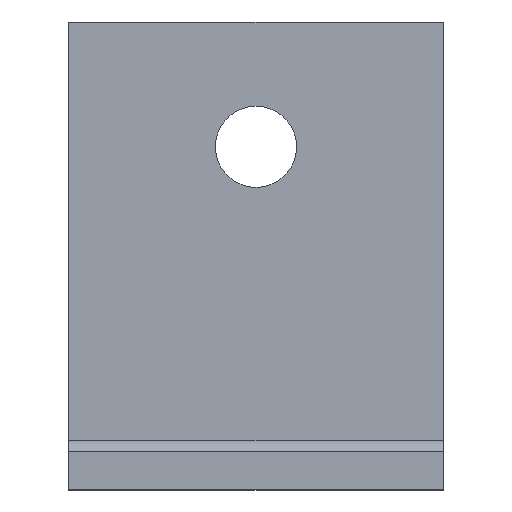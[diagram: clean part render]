
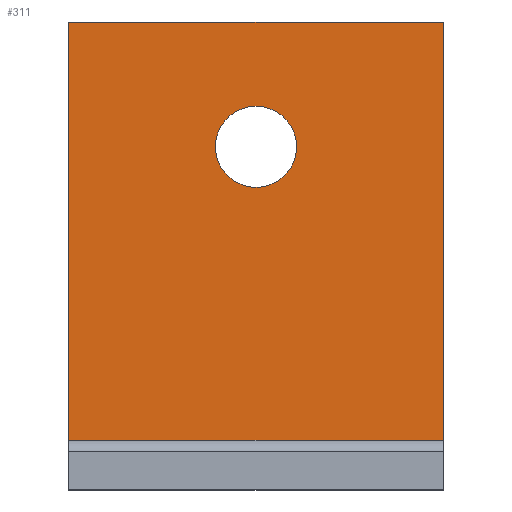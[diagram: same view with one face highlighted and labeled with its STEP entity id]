
A CAD part, top view. The second image highlights one B-rep face of the part: STEP entity #311.
In plain terms, the highlighted planar face has unit normal (0, 0, 1).
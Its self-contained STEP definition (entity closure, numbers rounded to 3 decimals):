
#1 = DIRECTION ( 'NONE',  ( 0., 0., 1. ) ) ;
#3 = CARTESIAN_POINT ( 'NONE',  ( 0., 0., 6. ) ) ;
#17 = DIRECTION ( 'NONE',  ( -1., 0., 0. ) ) ;
#31 = DIRECTION ( 'NONE',  ( -1., 0., 0. ) ) ;
#45 = VERTEX_POINT ( 'NONE', #162 ) ;
#85 = LINE ( 'NONE', #3, #494 ) ;
#91 = ORIENTED_EDGE ( 'NONE', *, *, #503, .T. ) ;
#92 = LINE ( 'NONE', #149, #400 ) ;
#99 = VERTEX_POINT ( 'NONE', #563 ) ;
#100 = DIRECTION ( 'NONE',  ( 0., -1., 0. ) ) ;
#110 = DIRECTION ( 'NONE',  ( 0., 1., 0. ) ) ;
#111 = EDGE_CURVE ( 'NONE', #249, #443, #196, .T. ) ;
#121 = CARTESIAN_POINT ( 'NONE',  ( 0., 0., 6. ) ) ;
#126 = CARTESIAN_POINT ( 'NONE',  ( 36.5, 55., 6. ) ) ;
#137 = VECTOR ( 'NONE', #302, 1000. ) ;
#146 = DIRECTION ( 'NONE',  ( 1., 0., 0. ) ) ;
#149 = CARTESIAN_POINT ( 'NONE',  ( 60., 0., 6. ) ) ;
#162 = CARTESIAN_POINT ( 'NONE',  ( 0., 8., 6. ) ) ;
#196 = CIRCLE ( 'NONE', #562, 6.5 ) ;
#202 = CARTESIAN_POINT ( 'NONE',  ( 60., 75., 6. ) ) ;
#249 = VERTEX_POINT ( 'NONE', #126 ) ;
#285 = LINE ( 'NONE', #594, #570 ) ;
#298 = CARTESIAN_POINT ( 'NONE',  ( 23.5, 55., 6. ) ) ;
#300 = VERTEX_POINT ( 'NONE', #508 ) ;
#302 = DIRECTION ( 'NONE',  ( 1., 0., 0. ) ) ;
#311 = ADVANCED_FACE ( 'NONE', ( #404, #378 ), #509, .F. ) ;
#317 = ORIENTED_EDGE ( 'NONE', *, *, #435, .T. ) ;
#325 = DIRECTION ( 'NONE',  ( 0., 0., -1. ) ) ;
#327 = CIRCLE ( 'NONE', #359, 6.5 ) ;
#359 = AXIS2_PLACEMENT_3D ( 'NONE', #488, #1, #146 ) ;
#370 = EDGE_LOOP ( 'NONE', ( #417, #538 ) ) ;
#377 = DIRECTION ( 'NONE',  ( 1., 0., 0. ) ) ;
#378 = FACE_OUTER_BOUND ( 'NONE', #432, .T. ) ;
#394 = LINE ( 'NONE', #589, #137 ) ;
#400 = VECTOR ( 'NONE', #110, 1000. ) ;
#404 = FACE_BOUND ( 'NONE', #370, .T. ) ;
#415 = AXIS2_PLACEMENT_3D ( 'NONE', #121, #325, #31 ) ;
#417 = ORIENTED_EDGE ( 'NONE', *, *, #111, .F. ) ;
#432 = EDGE_LOOP ( 'NONE', ( #557, #317, #91, #483 ) ) ;
#435 = EDGE_CURVE ( 'NONE', #45, #99, #394, .T. ) ;
#443 = VERTEX_POINT ( 'NONE', #298 ) ;
#483 = ORIENTED_EDGE ( 'NONE', *, *, #518, .T. ) ;
#488 = CARTESIAN_POINT ( 'NONE',  ( 30., 55., 6. ) ) ;
#494 = VECTOR ( 'NONE', #100, 1000. ) ;
#503 = EDGE_CURVE ( 'NONE', #99, #524, #92, .T. ) ;
#508 = CARTESIAN_POINT ( 'NONE',  ( 0., 75., 6. ) ) ;
#509 = PLANE ( 'NONE',  #415 ) ;
#513 = DIRECTION ( 'NONE',  ( 0., 0., 1. ) ) ;
#518 = EDGE_CURVE ( 'NONE', #524, #300, #285, .T. ) ;
#524 = VERTEX_POINT ( 'NONE', #202 ) ;
#538 = ORIENTED_EDGE ( 'NONE', *, *, #609, .F. ) ;
#557 = ORIENTED_EDGE ( 'NONE', *, *, #617, .T. ) ;
#562 = AXIS2_PLACEMENT_3D ( 'NONE', #613, #513, #377 ) ;
#563 = CARTESIAN_POINT ( 'NONE',  ( 60., 8., 6. ) ) ;
#570 = VECTOR ( 'NONE', #17, 1000. ) ;
#589 = CARTESIAN_POINT ( 'NONE',  ( 60., 8., 6. ) ) ;
#594 = CARTESIAN_POINT ( 'NONE',  ( 0., 75., 6. ) ) ;
#609 = EDGE_CURVE ( 'NONE', #443, #249, #327, .T. ) ;
#613 = CARTESIAN_POINT ( 'NONE',  ( 30., 55., 6. ) ) ;
#617 = EDGE_CURVE ( 'NONE', #300, #45, #85, .T. ) ;
